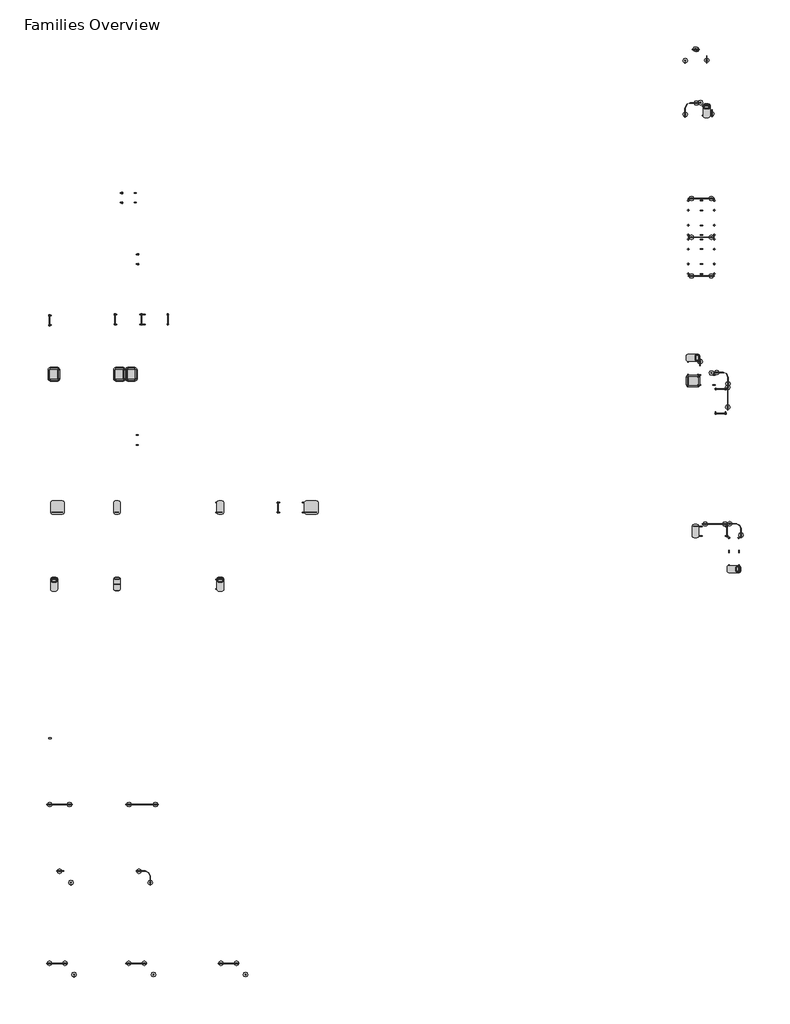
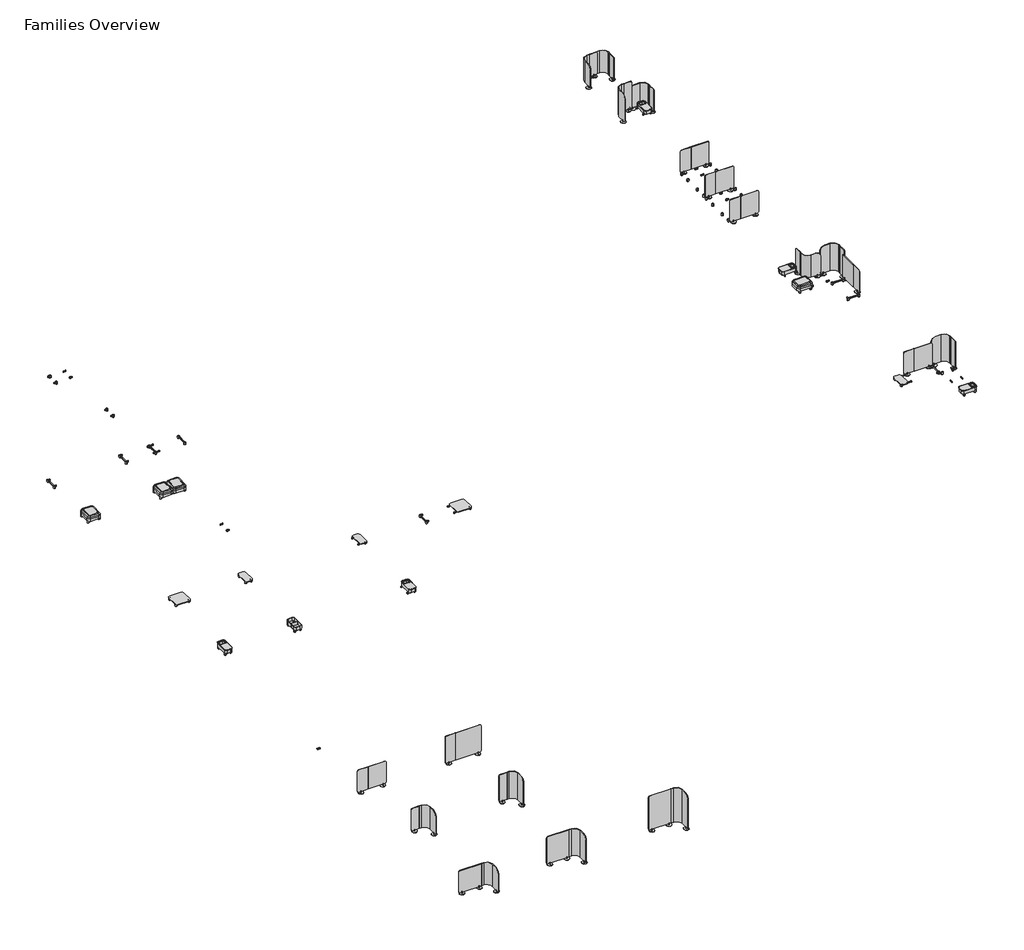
# One storey, incomplete: 97 furniture elements.
"""IFC4 building model written with IfcOpenShell, lengths in millimetres."""

from ifc_helpers import new_model, si_unit, origin, place, context, project, spatial, transform, mapped, element, save
from components import furniture_03c2da46, bench_887439ae, end_feet_1759f682, end_feet_4685812c, end_feet_ee971b91, end_feet_fc13c2ef, end_feet_a7b0973b, end_feet_fcaaf692, end_feet_c620475a, end_feet_60644597, end_feet_8e84b951, end_feet_360865f5, high_5fa6e08a, in_line_connector_dbd1c412, in_line_connector_42f77765, in_line_connector_5fc101ab, in_line_connector_33bfc2a5, in_line_connector_66479919, in_line_connector_24b8dcd2, low_a136bd70, low_30ccc711, low_2566cc5c, low_d14df45f, medium_ccca6f1d, medium_1cc685ec, medium_42b629f5, medium_833216df, middle_feet_97e92b7e, planter_1_liner_2fb4910a, planter_2_liners_fdd25d95, rectangle_table_269c9989, square_table_5ea6825c

model = new_model("IFC4")

# Units and contexts
model_context = context("Model", 3, world=origin())
ifc_project = project(units=[si_unit("LENGTHUNIT", "METRE", prefix="MILLI")], contexts=[model_context])

# Site, building, storey
site = spatial("IfcSite", under=ifc_project)
building = spatial("IfcBuilding", under=site)
storey = spatial("IfcBuildingStorey", under=building, Name="Families Overview", Elevation=0.0)

# Furniture
placement = place(None, origin())
furniture_shape = furniture_03c2da46(model_context)
element("IfcFurniture", 1, ObjectType="Coalesse_AM_Accessory_Lighting_Ensemble_Power : 2 Power/1 USBA/1 USBC", at=placement, inside=storey, context=model_context, shape_type="MappedRepresentation", body=[
    mapped(furniture_shape, transform((188809.7895796, -91010.2701569, 0.0), x_axis=(1.0, 0.0, 0.0), y_axis=(0.0, 1.0, 0.0), z_axis=(0.0, 0.0, 1.0))),
])
bench_shape = bench_887439ae(model_context)
element("IfcFurniture", 2, ObjectType="Coalesse_AM_Seating_LoungeChair_Ensemble_Modular_Bench : Bench", at=placement, inside=storey, context=model_context, shape_type="MappedRepresentation", body=[
    mapped(bench_shape, transform((189051.0895796, -69708.6523723, 0.0), x_axis=(1.0, 0.0, 0.0), y_axis=(0.0, 1.0, 0.0), z_axis=(0.0, 0.0, 1.0))),
])
element("IfcFurniture", 3, ObjectType="Coalesse_AM_Seating_LoungeChair_Ensemble_Modular_Bench : Bench", at=placement, inside=storey, context=model_context, shape_type="MappedRepresentation", body=[
    mapped(bench_shape, transform((192951.3004129, -69708.6523723, 0.0), x_axis=(1.0, 0.0, 0.0), y_axis=(0.0, 1.0, 0.0), z_axis=(0.0, 0.0, 1.0))),
])
element("IfcFurniture", 4, ObjectType="Coalesse_AM_Seating_LoungeChair_Ensemble_Modular_Bench : Bench", at=placement, inside=storey, context=model_context, shape_type="MappedRepresentation", body=[
    mapped(bench_shape, transform((193650.8345794, -69708.6523723, 0.0), x_axis=(1.0, 0.0, 0.0), y_axis=(0.0, 1.0, 0.0), z_axis=(0.0, 0.0, 1.0))),
])
element("IfcFurniture", 5, ObjectType="Coalesse_AM_Seating_LoungeChair_Ensemble_Modular_Bench : Bench", at=placement, inside=storey, context=model_context, shape_type="MappedRepresentation", body=[
    mapped(bench_shape, transform((226705.2162831, -69699.8033591, 0.0), x_axis=(0.0, -1.0, 0.0), y_axis=(1.0, 0.0, 0.0), z_axis=(0.0, 0.0, 1.0))),
])
end_feet_shape = end_feet_1759f682(model_context)
element("IfcFurniture", 6, ObjectType="Coalesse_AM_Ensemble_Chaise_EndFeet : End Feet", at=placement, inside=storey, context=model_context, shape_type="MappedRepresentation", body=[
    mapped(end_feet_shape, transform((188701.3224964, -66492.6726227, 0.0), x_axis=(1.0, 0.0, 0.0), y_axis=(0.0, 1.0, 0.0), z_axis=(0.0, 0.0, 1.0))),
])
element("IfcFurniture", 7, ObjectType="Coalesse_AM_Ensemble_Chaise_EndFeet : End Feet", at=placement, inside=storey, context=model_context, shape_type="MappedRepresentation", body=[
    mapped(end_feet_shape, transform((192601.5333296, -66442.1002054, 0.0), x_axis=(1.0, 0.0, 0.0), y_axis=(0.0, 1.0, 0.0), z_axis=(0.0, 0.0, 1.0))),
])
element("IfcFurniture", 8, ObjectType="Coalesse_AM_Ensemble_Chaise_EndFeet : End Feet", at=placement, inside=storey, context=model_context, shape_type="MappedRepresentation", body=[
    mapped(end_feet_shape, transform((202294.3525575, -77638.100078, 0.0), x_axis=(1.0, 0.0, 0.0), y_axis=(0.0, 1.0, 0.0), z_axis=(0.0, 0.0, 1.0))),
])
end_feet_2_shape = end_feet_4685812c(model_context)
element("IfcFurniture", 9, ObjectType="Coalesse_AM_Ensemble_Table_EndFeet : End Feet", at=placement, inside=storey, context=model_context, shape_type="MappedRepresentation", body=[
    mapped(end_feet_2_shape, transform((188907.0754928, -77638.100078, 0.0), x_axis=(1.0, 0.0, 0.0), y_axis=(0.0, 1.0, 0.0), z_axis=(0.0, 0.0, 1.0))),
])
element("IfcFurniture", 10, ObjectType="Coalesse_AM_Ensemble_Table_EndFeet : End Feet", at=placement, inside=storey, context=model_context, shape_type="MappedRepresentation", body=[
    mapped(end_feet_2_shape, transform((192654.8863261, -77638.100078, 0.0), x_axis=(1.0, 0.0, 0.0), y_axis=(0.0, 1.0, 0.0), z_axis=(0.0, 0.0, 1.0))),
])
element("IfcFurniture", 11, ObjectType="Coalesse_AM_Ensemble_Table_EndFeet : End Feet", at=placement, inside=storey, context=model_context, shape_type="MappedRepresentation", body=[
    mapped(end_feet_2_shape, transform((227110.2999646, -79049.139443, 0.0), x_axis=(0.9999999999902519, 4.41544376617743e-06, 0.0), y_axis=(-4.41544376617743e-06, 0.9999999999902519, 0.0), z_axis=(0.0, 0.0, 1.0))),
])
element("IfcFurniture", 12, ObjectType="Coalesse_AM_Ensemble_Planter_EndFeet : End Feet", at=placement, inside=storey, context=model_context, shape_type="MappedRepresentation", body=[
    mapped(end_feet_2_shape, transform((188907.0754928, -82208.5247708, 0.0), x_axis=(1.0, 0.0, 0.0), y_axis=(0.0, 1.0, 0.0), z_axis=(0.0, 0.0, 1.0))),
])
element("IfcFurniture", 13, ObjectType="Coalesse_AM_Ensemble_Planter_EndFeet : End Feet", at=placement, inside=storey, context=model_context, shape_type="MappedRepresentation", body=[
    mapped(end_feet_2_shape, transform((192654.8863261, -82208.5247708, 0.0), x_axis=(1.0, 0.0, 0.0), y_axis=(0.0, 1.0, 0.0), z_axis=(0.0, 0.0, 1.0))),
])
element("IfcFurniture", 14, ObjectType="Coalesse_AM_Ensemble_Planter_EndFeet : End Feet", at=placement, inside=storey, context=model_context, shape_type="MappedRepresentation", body=[
    mapped(end_feet_2_shape, transform((226703.6463236, -68161.8289435, 0.0), x_axis=(-1.485835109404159e-05, -0.9999999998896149, 0.0), y_axis=(0.9999999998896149, -1.485835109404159e-05, 0.0), z_axis=(0.0, 0.0, 1.0))),
])
end_feet_3_shape = end_feet_ee971b91(model_context)
element("IfcFurniture", 15, ObjectType="Coalesse_AM_Ensemble_Bench_EndOption : End Feet", at=placement, inside=storey, context=model_context, shape_type="MappedRepresentation", body=[
    mapped(end_feet_3_shape, transform((188701.3224964, -69708.6523723, 0.0), x_axis=(1.0, 0.0, 0.0), y_axis=(0.0, 1.0, 0.0), z_axis=(0.0, 0.0, 1.0))),
])
element("IfcFurniture", 16, ObjectType="Coalesse_AM_Ensemble_Bench_EndOption : End Feet", at=placement, inside=storey, context=model_context, shape_type="MappedRepresentation", body=[
    mapped(end_feet_3_shape, transform((192601.5333296, -69708.6523723, 0.0), x_axis=(1.0, 0.0, 0.0), y_axis=(0.0, 1.0, 0.0), z_axis=(0.0, 0.0, 1.0))),
])
end_feet_4_shape = end_feet_fc13c2ef(model_context)
element("IfcFurniture", 17, ObjectType="Coalesse_AM_Ensemble_Bench_EndOption : End Feet", at=placement, inside=storey, context=model_context, shape_type="MappedRepresentation", body=[
    mapped(end_feet_4_shape, transform((189400.8566629, -69708.6523723, 0.0), x_axis=(-1.0, 0.0, 0.0), y_axis=(0.0, -1.0, 0.0), z_axis=(0.0, 0.0, 1.0))),
])
element("IfcFurniture", 18, ObjectType="Coalesse_AM_Ensemble_Bench_EndOption : End Feet", at=placement, inside=storey, context=model_context, shape_type="MappedRepresentation", body=[
    mapped(end_feet_4_shape, transform((194000.6016627, -69708.6523723, 0.0), x_axis=(-1.0, 0.0, 0.0), y_axis=(0.0, -1.0, 0.0), z_axis=(0.0, 0.0, 1.0))),
])
element("IfcFurniture", 19, ObjectType="Coalesse_AM_Ensemble_Bench_EndOption : End Feet", at=placement, inside=storey, context=model_context, shape_type="MappedRepresentation", body=[
    mapped(end_feet_4_shape, transform((226705.2162831, -70049.5704424, 0.0), x_axis=(0.0, 1.0, 0.0), y_axis=(-1.0, 0.0, 0.0), z_axis=(0.0, 0.0, 1.0))),
])
end_feet_5_shape = end_feet_a7b0973b(model_context)
element("IfcFurniture", 20, ObjectType="Coalesse_AM_Ensemble_Table_EndFeet : End Feet", at=placement, inside=storey, context=model_context, shape_type="MappedRepresentation", body=[
    mapped(end_feet_5_shape, transform((189611.3629329, -77638.100078, 0.0), x_axis=(-1.0, 0.0, 0.0), y_axis=(0.0, -1.0, 0.0), z_axis=(0.0, 0.0, 1.0))),
])
element("IfcFurniture", 21, ObjectType="Coalesse_AM_Ensemble_Table_EndFeet : End Feet", at=placement, inside=storey, context=model_context, shape_type="MappedRepresentation", body=[
    mapped(end_feet_5_shape, transform((199102.7424333, -77638.100078, 0.0), x_axis=(-1.0, 0.0, 0.0), y_axis=(0.0, -1.0, 0.0), z_axis=(0.0, 0.0, 1.0))),
])
element("IfcFurniture", 22, ObjectType="Coalesse_AM_Ensemble_Table_EndFeet : End Feet", at=placement, inside=storey, context=model_context, shape_type="MappedRepresentation", body=[
    mapped(end_feet_5_shape, transform((204730.4660792, -77638.100078, 0.0), x_axis=(-1.0, 0.0, 0.0), y_axis=(0.0, -1.0, 0.0), z_axis=(0.0, 0.0, 1.0))),
])
element("IfcFurniture", 23, ObjectType="Coalesse_AM_Ensemble_Table_EndFeet : End Feet", at=placement, inside=storey, context=model_context, shape_type="MappedRepresentation", body=[
    mapped(end_feet_5_shape, transform((192949.3472647, -77638.100078, 0.0), x_axis=(-1.0, 0.0, 0.0), y_axis=(0.0, -1.0, 0.0), z_axis=(0.0, 0.0, 1.0))),
])
element("IfcFurniture", 24, ObjectType="Coalesse_AM_Ensemble_Planter_EndFeet : End Feet", at=placement, inside=storey, context=model_context, shape_type="MappedRepresentation", body=[
    mapped(end_feet_5_shape, transform((189215.396777, -82189.7286071, 0.0), x_axis=(-1.0, 0.0, 0.0), y_axis=(0.0, -1.0, 0.0), z_axis=(0.0, 0.0, 1.0))),
])
element("IfcFurniture", 25, ObjectType="Coalesse_AM_Ensemble_Planter_EndFeet : End Feet", at=placement, inside=storey, context=model_context, shape_type="MappedRepresentation", body=[
    mapped(end_feet_5_shape, transform((192963.2076102, -82189.7286071, 0.0), x_axis=(-1.0, 0.0, 0.0), y_axis=(0.0, -1.0, 0.0), z_axis=(0.0, 0.0, 1.0))),
])
element("IfcFurniture", 26, ObjectType="Coalesse_AM_Ensemble_Planter_EndFeet : End Feet", at=placement, inside=storey, context=model_context, shape_type="MappedRepresentation", body=[
    mapped(end_feet_5_shape, transform((199113.4230268, -82189.7286071, 0.0), x_axis=(-1.0, 0.0, 0.0), y_axis=(0.0, -1.0, 0.0), z_axis=(0.0, 0.0, 1.0))),
])
element("IfcFurniture", 27, ObjectType="Coalesse_AM_Ensemble_Planter_EndFeet : End Feet", at=placement, inside=storey, context=model_context, shape_type="MappedRepresentation", body=[
    mapped(end_feet_5_shape, transform((228075.4194325, -53996.6622273, 0.0), x_axis=(-0.9999999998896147, 1.4858351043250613e-05, 0.0), y_axis=(-1.4858351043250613e-05, -0.9999999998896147, 0.0), z_axis=(0.0, 0.0, 1.0))),
])
element("IfcFurniture", 28, ObjectType="Coalesse_AM_Ensemble_Planter_EndFeet : End Feet", at=placement, inside=storey, context=model_context, shape_type="MappedRepresentation", body=[
    mapped(end_feet_5_shape, transform((229153.7173517, -81056.4671232, 0.0), x_axis=(-1.1482806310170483e-05, 0.9999999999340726, 0.0), y_axis=(-0.9999999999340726, -1.1482806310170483e-05, 0.0), z_axis=(0.0, 0.0, 1.0))),
])
end_feet_6_shape = end_feet_fcaaf692(model_context)
element("IfcFurniture", 29, ObjectType="Coalesse_AM_Ensemble_Chaise_EndFeet : End Feet", at=placement, inside=storey, context=model_context, shape_type="MappedRepresentation", body=[
    mapped(end_feet_6_shape, transform((228345.5846161, -71728.0387754, 0.0), x_axis=(0.0, 1.0, 0.0), y_axis=(-1.0, 0.0, 0.0), z_axis=(0.0, 0.0, 1.0))),
])
end_feet_7_shape = end_feet_c620475a(model_context)
element("IfcFurniture", 30, ObjectType="Coalesse_AM_Ensemble_Seat_EndOption : End Feet", at=placement, inside=storey, context=model_context, shape_type="MappedRepresentation", body=[
    mapped(end_feet_7_shape, transform((192976.1447419, -59197.700078, 0.0), x_axis=(1.0, 0.0, 0.0), y_axis=(0.0, 1.0, 0.0), z_axis=(0.0, 0.0, 1.0))),
])
element("IfcFurniture", 31, ObjectType="Coalesse_AM_Ensemble_Seat_EndOption : End Feet", at=placement, inside=storey, context=model_context, shape_type="MappedRepresentation", body=[
    mapped(end_feet_7_shape, transform((193925.2293254, -62855.300078, 0.0), x_axis=(1.0, 0.0, 0.0), y_axis=(0.0, 1.0, 0.0), z_axis=(0.0, 0.0, 1.0))),
])
element("IfcFurniture", 32, ObjectType="Coalesse_AM_Ensemble_Seat_EndOption : End Feet", at=placement, inside=storey, context=model_context, shape_type="MappedRepresentation", body=[
    mapped(end_feet_7_shape, transform((226696.7421279, -59652.8265637, 0.0), x_axis=(1.0, 0.0, 0.0), y_axis=(0.0, 1.0, 0.0), z_axis=(0.0, 0.0, 1.0))),
])
element("IfcFurniture", 33, ObjectType="Coalesse_AM_Ensemble_Seat_EndOption : End Feet", at=placement, inside=storey, context=model_context, shape_type="MappedRepresentation", body=[
    mapped(end_feet_7_shape, transform((228504.8368026, -60306.8983715, 0.0), x_axis=(-1.0, 0.0, 0.0), y_axis=(0.0, -1.0, 0.0), z_axis=(0.0, 0.0, 1.0))),
])
element("IfcFurniture", 34, ObjectType="Coalesse_AM_Ensemble_Seat_EndOption : End Feet", at=placement, inside=storey, context=model_context, shape_type="MappedRepresentation", body=[
    mapped(end_feet_7_shape, transform((226696.7421279, -61962.7874222, 0.0), x_axis=(1.0, 0.0, 0.0), y_axis=(0.0, 1.0, 0.0), z_axis=(0.0, 0.0, 1.0))),
])
element("IfcFurniture", 35, ObjectType="Coalesse_AM_Ensemble_Seat_EndOption : End Feet", at=placement, inside=storey, context=model_context, shape_type="MappedRepresentation", body=[
    mapped(end_feet_7_shape, transform((228504.8368026, -62616.85923, 0.0), x_axis=(-1.0, 0.0, 0.0), y_axis=(0.0, -1.0, 0.0), z_axis=(0.0, 0.0, 1.0))),
])
end_feet_8_shape = end_feet_60644597(model_context)
element("IfcFurniture", 36, ObjectType="Coalesse_AM_Ensemble_Chaise_EndOption : End Feet", at=placement, inside=storey, context=model_context, shape_type="MappedRepresentation", body=[
    mapped(end_feet_8_shape, transform((196042.8861411, -66442.1002054, 0.0), x_axis=(-1.0, 0.0, 0.0), y_axis=(0.0, -1.0, 0.0), z_axis=(0.0, 0.0, 1.0))),
])
end_feet_9_shape = end_feet_8e84b951(model_context)
element("IfcFurniture", 37, ObjectType="Coalesse_AM_Ensemble_Chaise_EndOption : End Feet", at=placement, inside=storey, context=model_context, shape_type="MappedRepresentation", body=[
    mapped(end_feet_9_shape, transform((228345.5846161, -69965.154297, 0.0), x_axis=(0.0, -1.0, 0.0), y_axis=(1.0, 0.0, 0.0), z_axis=(0.0, 0.0, 1.0))),
])
end_feet_10_shape = end_feet_360865f5(model_context)
element("IfcFurniture", 38, ObjectType="Coalesse_AM_Ensemble_Seat_EndOption : End Feet", at=placement, inside=storey, context=model_context, shape_type="MappedRepresentation", body=[
    mapped(end_feet_10_shape, transform((228504.8368026, -59652.8265637, 0.0), x_axis=(-1.0, 0.0, 0.0), y_axis=(0.0, -1.0, 0.0), z_axis=(0.0, 0.0, 1.0))),
])
element("IfcFurniture", 39, ObjectType="Coalesse_AM_Ensemble_Seat_EndOption : End Feet", at=placement, inside=storey, context=model_context, shape_type="MappedRepresentation", body=[
    mapped(end_feet_10_shape, transform((226696.7421279, -60306.8983715, 0.0), x_axis=(1.0, 0.0, 0.0), y_axis=(0.0, 1.0, 0.0), z_axis=(0.0, 0.0, 1.0))),
])
element("IfcFurniture", 40, ObjectType="Coalesse_AM_Ensemble_Seat_EndOption : End Feet", at=placement, inside=storey, context=model_context, shape_type="MappedRepresentation", body=[
    mapped(end_feet_10_shape, transform((228504.8368026, -61962.7874222, 0.0), x_axis=(-1.0, 0.0, 0.0), y_axis=(0.0, -1.0, 0.0), z_axis=(0.0, 0.0, 1.0))),
])
element("IfcFurniture", 41, ObjectType="Coalesse_AM_Ensemble_Seat_EndOption : End Feet", at=placement, inside=storey, context=model_context, shape_type="MappedRepresentation", body=[
    mapped(end_feet_10_shape, transform((226696.7421279, -62616.85923, 0.0), x_axis=(1.0, 0.0, 0.0), y_axis=(0.0, 1.0, 0.0), z_axis=(0.0, 0.0, 1.0))),
])
high_shape = high_5fa6e08a(model_context)
element("IfcFurniture", 42, ObjectType="Coalesse_AM_SpaceDivision_Screen_Ensemble_J : High", at=placement, inside=storey, context=model_context, shape_type="MappedRepresentation", body=[
    mapped(high_shape, transform((198824.2566629, -104364.9882848, 0.0), x_axis=(1.0, 0.0, 0.0), y_axis=(0.0, 1.0, 0.0), z_axis=(0.0, 0.0, 1.0))),
])
in_line_connector_shape = in_line_connector_dbd1c412(model_context)
element("IfcFurniture", 43, ObjectType="Coalesse_AM_Ensemble_Chaise_EndFeet : In-Line Connector", at=placement, inside=storey, context=model_context, shape_type="MappedRepresentation", body=[
    mapped(in_line_connector_shape, transform((194280.0016627, -66442.1002054, 0.0), x_axis=(1.0, 0.0, 0.0), y_axis=(0.0, 1.0, 0.0), z_axis=(0.0, 0.0, 1.0))),
])
element("IfcFurniture", 44, ObjectType="Coalesse_AM_Ensemble_Chaise_EndFeet : In-Line Connector", at=placement, inside=storey, context=model_context, shape_type="MappedRepresentation", body=[
    mapped(in_line_connector_shape, transform((227458.0129682, -79049.1379077, 0.0), x_axis=(0.9999999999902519, 4.415443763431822e-06, 0.0), y_axis=(-4.415443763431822e-06, 0.9999999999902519, 0.0), z_axis=(0.0, 0.0, 1.0))),
])
in_line_connector_2_shape = in_line_connector_42f77765(model_context)
element("IfcFurniture", 45, ObjectType="Coalesse_AM_Ensemble_Bench_EndOption : In-Line Connector", at=placement, inside=storey, context=model_context, shape_type="MappedRepresentation", body=[
    mapped(in_line_connector_2_shape, transform((193301.0674962, -69708.6523723, 0.0), x_axis=(-1.0, 0.0, 0.0), y_axis=(0.0, -1.0, 0.0), z_axis=(0.0, 0.0, 1.0))),
])
in_line_connector_3_shape = in_line_connector_5fc101ab(model_context)
element("IfcFurniture", 46, ObjectType="Coalesse_AM_Ensemble_Bench_EndOption : In-Line Connector", at=placement, inside=storey, context=model_context, shape_type="MappedRepresentation", body=[
    mapped(in_line_connector_3_shape, transform((193301.0674962, -69708.6523723, 0.0), x_axis=(1.0, 0.0, 0.0), y_axis=(0.0, 1.0, 0.0), z_axis=(0.0, 0.0, 1.0))),
])
element("IfcFurniture", 47, ObjectType="Coalesse_AM_Ensemble_Bench_EndOption : In-Line Connector", at=placement, inside=storey, context=model_context, shape_type="MappedRepresentation", body=[
    mapped(in_line_connector_3_shape, transform((226705.2162831, -69350.0362758, 0.0), x_axis=(0.0, -1.0, 0.0), y_axis=(1.0, 0.0, 0.0), z_axis=(0.0, 0.0, 1.0))),
])
in_line_connector_4_shape = in_line_connector_33bfc2a5(model_context)
element("IfcFurniture", 48, ObjectType="Coalesse_AM_Ensemble_Seat_EndOption : In-Line Connector", at=placement, inside=storey, context=model_context, shape_type="MappedRepresentation", body=[
    mapped(in_line_connector_4_shape, transform((227441.5372788, -70049.5704424, 0.0), x_axis=(1.0, 0.0, 0.0), y_axis=(0.0, 1.0, 0.0), z_axis=(0.0, 0.0, 1.0))),
])
element("IfcFurniture", 49, ObjectType="Coalesse_AM_Ensemble_Seat_EndOption : In-Line Connector", at=placement, inside=storey, context=model_context, shape_type="MappedRepresentation", body=[
    mapped(in_line_connector_4_shape, transform((226705.2162831, -68445.9889385, 0.0), x_axis=(0.0, -1.0, 0.0), y_axis=(1.0, 0.0, 0.0), z_axis=(0.0, 0.0, 1.0))),
])
element("IfcFurniture", 50, ObjectType="Coalesse_AM_Ensemble_Seat_EndOption : In-Line Connector", at=placement, inside=storey, context=model_context, shape_type="MappedRepresentation", body=[
    mapped(in_line_connector_4_shape, transform((227678.3026361, -60306.8983715, 0.0), x_axis=(-1.0, 0.0, 0.0), y_axis=(0.0, -1.0, 0.0), z_axis=(0.0, 0.0, 1.0))),
])
element("IfcFurniture", 51, ObjectType="Coalesse_AM_Ensemble_Seat_EndOption : In-Line Connector", at=placement, inside=storey, context=model_context, shape_type="MappedRepresentation", body=[
    mapped(in_line_connector_4_shape, transform((227678.3026361, -62616.85923, 0.0), x_axis=(-1.0, 0.0, 0.0), y_axis=(0.0, -1.0, 0.0), z_axis=(0.0, 0.0, 1.0))),
])
element("IfcFurniture", 52, ObjectType="Coalesse_AM_Ensemble_Seat_EndOption : In-Line Connector", at=placement, inside=storey, context=model_context, shape_type="MappedRepresentation", body=[
    mapped(in_line_connector_4_shape, transform((229136.4848987, -79790.745703, 0.0), x_axis=(1.148280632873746e-05, -0.9999999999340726, 0.0), y_axis=(0.9999999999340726, 1.148280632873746e-05, 0.0), z_axis=(0.0, 0.0, 1.0))),
])
in_line_connector_5_shape = in_line_connector_66479919(model_context)
element("IfcFurniture", 53, ObjectType="Coalesse_AM_Ensemble_Seat_EndOption : In-Line Connector", at=placement, inside=storey, context=model_context, shape_type="MappedRepresentation", body=[
    mapped(in_line_connector_5_shape, transform((193131.1710835, -59197.700078, 0.0), x_axis=(-1.0, 0.0, 0.0), y_axis=(0.0, -1.0, 0.0), z_axis=(0.0, 0.0, 1.0))),
])
element("IfcFurniture", 54, ObjectType="Coalesse_AM_Ensemble_Seat_EndOption : In-Line Connector", at=placement, inside=storey, context=model_context, shape_type="MappedRepresentation", body=[
    mapped(in_line_connector_5_shape, transform((193957.70525, -59197.700078, 0.0), x_axis=(-1.0, 0.0, 0.0), y_axis=(0.0, -1.0, 0.0), z_axis=(0.0, 0.0, 1.0))),
])
element("IfcFurniture", 55, ObjectType="Coalesse_AM_Ensemble_Seat_EndOption : In-Line Connector", at=placement, inside=storey, context=model_context, shape_type="MappedRepresentation", body=[
    mapped(in_line_connector_5_shape, transform((194079.6001629, -62855.300078, 0.0), x_axis=(-1.0, 0.0, 0.0), y_axis=(0.0, -1.0, 0.0), z_axis=(0.0, 0.0, 1.0))),
])
element("IfcFurniture", 56, ObjectType="Coalesse_AM_Ensemble_Seat_EndOption : In-Line Connector", at=placement, inside=storey, context=model_context, shape_type="MappedRepresentation", body=[
    mapped(in_line_connector_5_shape, transform((194079.6001629, -73619.2182058, 0.0), x_axis=(-1.0, 0.0, 0.0), y_axis=(0.0, -1.0, 0.0), z_axis=(0.0, 0.0, 1.0))),
])
element("IfcFurniture", 57, ObjectType="Coalesse_AM_Ensemble_Seat_EndOption : In-Line Connector", at=placement, inside=storey, context=model_context, shape_type="MappedRepresentation", body=[
    mapped(in_line_connector_5_shape, transform((198831.7814129, -77638.100078, 0.0), x_axis=(-1.0, 0.0, 0.0), y_axis=(0.0, -1.0, 0.0), z_axis=(0.0, 0.0, 1.0))),
])
element("IfcFurniture", 58, ObjectType="Coalesse_AM_Ensemble_Seat_EndOption : In-Line Connector", at=placement, inside=storey, context=model_context, shape_type="MappedRepresentation", body=[
    mapped(in_line_connector_5_shape, transform((198831.7814129, -82208.5247708, 0.0), x_axis=(-1.0, 0.0, 0.0), y_axis=(0.0, -1.0, 0.0), z_axis=(0.0, 0.0, 1.0))),
])
element("IfcFurniture", 59, ObjectType="Coalesse_AM_Ensemble_Seat_EndOption : In-Line Connector", at=placement, inside=storey, context=model_context, shape_type="MappedRepresentation", body=[
    mapped(in_line_connector_5_shape, transform((228423.0977869, -70049.5704424, 0.0), x_axis=(-1.0, 0.0, 0.0), y_axis=(0.0, -1.0, 0.0), z_axis=(0.0, 0.0, 1.0))),
])
element("IfcFurniture", 60, ObjectType="Coalesse_AM_Ensemble_Seat_EndOption : In-Line Connector", at=placement, inside=storey, context=model_context, shape_type="MappedRepresentation", body=[
    mapped(in_line_connector_5_shape, transform((226705.2162831, -69427.5494467, 0.0), x_axis=(0.0, 1.0, 0.0), y_axis=(-1.0, 0.0, 0.0), z_axis=(0.0, 0.0, 1.0))),
])
element("IfcFurniture", 61, ObjectType="Coalesse_AM_Ensemble_Seat_EndOption : In-Line Connector", at=placement, inside=storey, context=model_context, shape_type="MappedRepresentation", body=[
    mapped(in_line_connector_5_shape, transform((227678.3026361, -59652.8265637, 0.0), x_axis=(-1.0, 0.0, 0.0), y_axis=(0.0, -1.0, 0.0), z_axis=(0.0, 0.0, 1.0))),
])
element("IfcFurniture", 62, ObjectType="Coalesse_AM_Ensemble_Seat_EndOption : In-Line Connector", at=placement, inside=storey, context=model_context, shape_type="MappedRepresentation", body=[
    mapped(in_line_connector_5_shape, transform((227678.3026361, -61962.7874222, 0.0), x_axis=(-1.0, 0.0, 0.0), y_axis=(0.0, -1.0, 0.0), z_axis=(0.0, 0.0, 1.0))),
])
element("IfcFurniture", 63, ObjectType="Coalesse_AM_Ensemble_Seat_EndOption : In-Line Connector", at=placement, inside=storey, context=model_context, shape_type="MappedRepresentation", body=[
    mapped(in_line_connector_5_shape, transform((227791.2580667, -54013.8838505, 0.0), x_axis=(-1.0, 0.0, 0.0), y_axis=(0.0, -1.0, 0.0), z_axis=(0.0, 0.0, 1.0))),
])
element("IfcFurniture", 64, ObjectType="Coalesse_AM_Ensemble_Seat_EndOption : In-Line Connector", at=placement, inside=storey, context=model_context, shape_type="MappedRepresentation", body=[
    mapped(in_line_connector_5_shape, transform((229136.4961698, -80772.3062111, 0.0), x_axis=(-1.148280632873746e-05, 0.9999999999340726, 0.0), y_axis=(-0.9999999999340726, -1.148280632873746e-05, 0.0), z_axis=(0.0, 0.0, 1.0))),
])
in_line_connector_6_shape = in_line_connector_24b8dcd2(model_context)
element("IfcFurniture", 65, ObjectType="Coalesse_AM_Ensemble_Chaise_EndOption : In-Line Connector", at=placement, inside=storey, context=model_context, shape_type="MappedRepresentation", body=[
    mapped(in_line_connector_6_shape, transform((204057.2370359, -77638.100078, 0.0), x_axis=(-1.0, 0.0, 0.0), y_axis=(0.0, -1.0, 0.0), z_axis=(0.0, 0.0, 1.0))),
])
low_shape = low_a136bd70(model_context)
element("IfcFurniture", 66, ObjectType="Coalesse_AM_SpaceDivision_Screen_Ensemble_Corner : Low", at=placement, inside=storey, context=model_context, shape_type="MappedRepresentation", body=[
    mapped(low_shape, transform((189223.0566629, -98878.5882848, 0.0), x_axis=(1.0, 0.0, 0.0), y_axis=(0.0, 1.0, 0.0), z_axis=(0.0, 0.0, 1.0))),
])
low_2_shape = low_30ccc711(model_context)
element("IfcFurniture", 67, ObjectType="Coalesse_AM_SpaceDivision_Screen_Ensemble_J : Low", at=placement, inside=storey, context=model_context, shape_type="MappedRepresentation", body=[
    mapped(low_2_shape, transform((188613.4566629, -104364.9882848, 0.0), x_axis=(1.0, 0.0, 0.0), y_axis=(0.0, 1.0, 0.0), z_axis=(0.0, 0.0, 1.0))),
])
low_3_shape = low_2566cc5c(model_context)
element("IfcFurniture", 68, ObjectType="Coalesse_AM_SpaceDivision_Screen_Ensemble_Straight : Low", at=placement, inside=storey, context=model_context, shape_type="MappedRepresentation", body=[
    mapped(low_3_shape, transform((188613.4566629, -94916.1882848, 0.0), x_axis=(1.0, 0.0, 0.0), y_axis=(0.0, 1.0, 0.0), z_axis=(0.0, 0.0, 1.0))),
])
element("IfcFurniture", 69, ObjectType="Coalesse_AM_SpaceDivision_Screen_Ensemble_Straight : Low", at=placement, inside=storey, context=model_context, shape_type="MappedRepresentation", body=[
    mapped(low_3_shape, transform((226831.7909826, -58815.4193851, 0.0), x_axis=(1.0, 0.0, 0.0), y_axis=(0.0, 1.0, 0.0), z_axis=(0.0, 0.0, 1.0))),
])
element("IfcFurniture", 70, ObjectType="Coalesse_AM_SpaceDivision_Screen_Ensemble_Straight : Low", at=placement, inside=storey, context=model_context, shape_type="MappedRepresentation", body=[
    mapped(low_3_shape, transform((226831.7909826, -61126.0265637, 0.0), x_axis=(1.0, 0.0, 0.0), y_axis=(0.0, 1.0, 0.0), z_axis=(0.0, 0.0, 1.0))),
])
element("IfcFurniture", 71, ObjectType="Coalesse_AM_SpaceDivision_Screen_Ensemble_Straight : Low", at=placement, inside=storey, context=model_context, shape_type="MappedRepresentation", body=[
    mapped(low_3_shape, transform((226831.7909826, -63436.6337422, 0.0), x_axis=(1.0, 0.0, 0.0), y_axis=(0.0, 1.0, 0.0), z_axis=(0.0, 0.0, 1.0))),
])
element("IfcFurniture", 72, ObjectType="Coalesse_AM_SpaceDivision_Screen_Ensemble_Straight : Low", at=placement, inside=storey, context=model_context, shape_type="MappedRepresentation", body=[
    mapped(low_3_shape, transform((229172.1187826, -71444.2086922, 0.0), x_axis=(0.0, 1.0, 0.0), y_axis=(-1.0, 0.0, 0.0), z_axis=(0.0, 0.0, 1.0))),
])
element("IfcFurniture", 73, ObjectType="Coalesse_AM_SpaceDivision_Screen_Ensemble_Straight : Low", at=placement, inside=storey, context=model_context, shape_type="MappedRepresentation", body=[
    mapped(low_3_shape, transform((227650.3481459, -78211.7298799, 0.0), x_axis=(0.9999999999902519, 4.415443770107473e-06, 0.0), y_axis=(-4.415443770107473e-06, 0.9999999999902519, 0.0), z_axis=(0.0, 0.0, 1.0))),
])
low_4_shape = low_d14df45f(model_context)
element("IfcFurniture", 74, ObjectType="Coalesse_AM_SpaceDivision_Screen_Ensemble_Corner : Low", at=placement, inside=storey, context=model_context, shape_type="MappedRepresentation", body=[
    mapped(low_4_shape, transform((227487.5799478, -49935.5344872, 0.0), x_axis=(-0.9999999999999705, -2.432514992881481e-07, 0.0), y_axis=(2.432514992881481e-07, -0.9999999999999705, 0.0), z_axis=(0.0, 0.0, 1.0))),
])
element("IfcFurniture", 75, ObjectType="Coalesse_AM_SpaceDivision_Screen_Ensemble_Corner : Low", at=placement, inside=storey, context=model_context, shape_type="MappedRepresentation", body=[
    mapped(low_4_shape, transform((227941.3083249, -50765.5298509, 0.0), x_axis=(-4.865029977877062e-07, 0.9999999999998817, 0.0), y_axis=(-0.9999999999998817, -4.865029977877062e-07, 0.0), z_axis=(0.0, 0.0, 1.0))),
])
element("IfcFurniture", 76, ObjectType="Coalesse_AM_SpaceDivision_Screen_Ensemble_Corner : Low", at=placement, inside=storey, context=model_context, shape_type="MappedRepresentation", body=[
    mapped(low_4_shape, transform((228246.1083249, -53965.9298509, 0.0), x_axis=(-4.865029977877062e-07, 0.9999999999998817, 0.0), y_axis=(-0.9999999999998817, -4.865029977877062e-07, 0.0), z_axis=(0.0, 0.0, 1.0))),
])
element("IfcFurniture", 77, ObjectType="Coalesse_AM_SpaceDivision_Screen_Ensemble_Corner : Low", at=placement, inside=storey, context=model_context, shape_type="MappedRepresentation", body=[
    mapped(low_4_shape, transform((227519.0504496, -68377.1156084, 0.0), x_axis=(0.0, -1.0, 0.0), y_axis=(1.0, 0.0, 0.0), z_axis=(0.0, 0.0, 1.0))),
])
medium_shape = medium_ccca6f1d(model_context)
element("IfcFurniture", 78, ObjectType="Coalesse_AM_SpaceDivision_Screen_Ensemble_Corner : Medium", at=placement, inside=storey, context=model_context, shape_type="MappedRepresentation", body=[
    mapped(medium_shape, transform((193947.4566629, -98878.5882848, 0.0), x_axis=(1.0, 0.0, 0.0), y_axis=(0.0, 1.0, 0.0), z_axis=(0.0, 0.0, 1.0))),
])
medium_2_shape = medium_1cc685ec(model_context)
element("IfcFurniture", 79, ObjectType="Coalesse_AM_SpaceDivision_Screen_Ensemble_J : Medium", at=placement, inside=storey, context=model_context, shape_type="MappedRepresentation", body=[
    mapped(medium_2_shape, transform((193337.8566629, -104364.9882848, 0.0), x_axis=(1.0, 0.0, 0.0), y_axis=(0.0, 1.0, 0.0), z_axis=(0.0, 0.0, 1.0))),
])
medium_3_shape = medium_42b629f5(model_context)
element("IfcFurniture", 80, ObjectType="Coalesse_AM_SpaceDivision_Screen_Ensemble_Straight : Medium", at=placement, inside=storey, context=model_context, shape_type="MappedRepresentation", body=[
    mapped(medium_3_shape, transform((193337.8566629, -94916.1882848, 0.0), x_axis=(1.0, 0.0, 0.0), y_axis=(0.0, 1.0, 0.0), z_axis=(0.0, 0.0, 1.0))),
])
medium_4_shape = medium_833216df(model_context)
element("IfcFurniture", 81, ObjectType="Coalesse_AM_SpaceDivision_Screen_Ensemble_Corner : Medium", at=placement, inside=storey, context=model_context, shape_type="MappedRepresentation", body=[
    mapped(medium_4_shape, transform((227487.5799478, -53135.9344872, 0.0), x_axis=(-0.9999999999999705, -2.432514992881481e-07, 0.0), y_axis=(2.432514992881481e-07, -0.9999999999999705, 0.0), z_axis=(0.0, 0.0, 1.0))),
])
element("IfcFurniture", 82, ObjectType="Coalesse_AM_SpaceDivision_Screen_Ensemble_Corner : Medium", at=placement, inside=storey, context=model_context, shape_type="MappedRepresentation", body=[
    mapped(medium_4_shape, transform((229215.0159114, -70035.6841123, 0.0), x_axis=(-2.432514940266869e-07, 0.9999999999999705, 0.0), y_axis=(-0.9999999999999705, -2.432514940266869e-07, 0.0), z_axis=(0.0, 0.0, 1.0))),
])
element("IfcFurniture", 83, ObjectType="Coalesse_AM_SpaceDivision_Screen_Ensemble_Corner : Medium", at=placement, inside=storey, context=model_context, shape_type="MappedRepresentation", body=[
    mapped(medium_4_shape, transform((229986.9987581, -79041.714941, 0.0), x_axis=(-1.1482806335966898e-05, 0.9999999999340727, 0.0), y_axis=(-0.9999999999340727, -1.1482806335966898e-05, 0.0), z_axis=(0.0, 0.0, 1.0))),
])
middle_feet_shape = middle_feet_97e92b7e(model_context)
element("IfcFurniture", 84, ObjectType="Coalesse_AM_Ensemble_Seat_EndOption : Middle Feet", at=placement, inside=storey, context=model_context, shape_type="MappedRepresentation", body=[
    mapped(middle_feet_shape, transform((229136.4848987, -78964.2115365, 0.0), x_axis=(1.148280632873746e-05, -0.9999999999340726, 0.0), y_axis=(0.9999999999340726, 1.148280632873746e-05, 0.0), z_axis=(0.0, 0.0, 1.0))),
])
element("IfcFurniture", 85, ObjectType="Coalesse_AM_Ensemble_Chaise_EndOption : Middle Feet", at=placement, inside=storey, context=model_context, shape_type="MappedRepresentation", body=[
    mapped(end_feet_6_shape, transform((194364.417808, -66442.1002054, 0.0), x_axis=(-1.0, 0.0, 0.0), y_axis=(0.0, -1.0, 0.0), z_axis=(0.0, 0.0, 1.0))),
])
element("IfcFurniture", 86, ObjectType="Coalesse_AM_Ensemble_Chaise_EndOption : Middle Feet", at=placement, inside=storey, context=model_context, shape_type="MappedRepresentation", body=[
    mapped(end_feet_6_shape, transform((229220.8974466, -79049.1301237, 0.0), x_axis=(-0.9999999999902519, -4.415443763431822e-06, 0.0), y_axis=(4.415443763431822e-06, -0.9999999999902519, 0.0), z_axis=(0.0, 0.0, 1.0))),
])
planter_1_liner_shape = planter_1_liner_2fb4910a(model_context)
element("IfcFurniture", 87, ObjectType="Coalesse_AM_Accessory_Planter_Ensemble_Modular : Planter 1 Liner", at=placement, inside=storey, context=model_context, shape_type="MappedRepresentation", body=[
    mapped(planter_1_liner_shape, transform((189266.9895796, -82208.5247708, 0.0), x_axis=(1.0, 0.0, 0.0), y_axis=(0.0, 1.0, 0.0), z_axis=(0.0, 0.0, 1.0))),
])
element("IfcFurniture", 88, ObjectType="Coalesse_AM_Accessory_Planter_Ensemble_Modular : Planter 1 Liner", at=placement, inside=storey, context=model_context, shape_type="MappedRepresentation", body=[
    mapped(planter_1_liner_shape, transform((199165.0158294, -82208.5247708, 0.0), x_axis=(1.0, 0.0, 0.0), y_axis=(0.0, 1.0, 0.0), z_axis=(0.0, 0.0, 1.0))),
])
element("IfcFurniture", 89, ObjectType="Coalesse_AM_Accessory_Planter_Ensemble_Modular : Planter 1 Liner", at=placement, inside=storey, context=model_context, shape_type="MappedRepresentation", body=[
    mapped(planter_1_liner_shape, transform((228127.0119558, -54015.4591577, 0.0), x_axis=(0.9999999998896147, -1.4858351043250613e-05, 0.0), y_axis=(1.4858351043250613e-05, 0.9999999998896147, 0.0), z_axis=(0.0, 0.0, 1.0))),
])
element("IfcFurniture", 90, ObjectType="Coalesse_AM_Accessory_Planter_Ensemble_Modular : Planter 1 Liner", at=placement, inside=storey, context=model_context, shape_type="MappedRepresentation", body=[
    mapped(planter_1_liner_shape, transform((229134.9217804, -81108.0601417, 0.0), x_axis=(1.1482806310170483e-05, -0.9999999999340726, 0.0), y_axis=(0.9999999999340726, 1.1482806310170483e-05, 0.0), z_axis=(0.0, 0.0, 1.0))),
])
element("IfcFurniture", 91, ObjectType="Coalesse_AM_Accessory_Planter_Ensemble_Modular : Planter 1 Liner", at=placement, inside=storey, context=model_context, shape_type="MappedRepresentation", body=[
    mapped(planter_1_liner_shape, transform((226703.6409759, -68521.7430303, 0.0), x_axis=(-1.485835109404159e-05, -0.9999999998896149, 0.0), y_axis=(0.9999999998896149, -1.485835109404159e-05, 0.0), z_axis=(0.0, 0.0, 1.0))),
])
planter_2_liners_shape = planter_2_liners_fdd25d95(model_context)
element("IfcFurniture", 92, ObjectType="Coalesse_AM_Accessory_Planter_Ensemble_Modular : Planter 2 Liners", at=placement, inside=storey, context=model_context, shape_type="MappedRepresentation", body=[
    mapped(planter_2_liners_shape, transform((193014.8004129, -82208.5247708, 0.0), x_axis=(1.0, 0.0, 0.0), y_axis=(0.0, 1.0, 0.0), z_axis=(0.0, 0.0, 1.0))),
])
rectangle_table_shape = rectangle_table_269c9989(model_context)
element("IfcFurniture", 93, ObjectType="Coalesse_AM_Table_Occasional_Ensemble_Modular : Rectangle Table", at=placement, inside=storey, context=model_context, shape_type="MappedRepresentation", body=[
    mapped(rectangle_table_shape, transform((193014.8004129, -77638.100078, 0.0), x_axis=(1.0, 0.0, 0.0), y_axis=(0.0, 1.0, 0.0), z_axis=(0.0, 0.0, 1.0))),
])
element("IfcFurniture", 94, ObjectType="Coalesse_AM_Table_Occasional_Ensemble_Modular : Rectangle Table", at=placement, inside=storey, context=model_context, shape_type="MappedRepresentation", body=[
    mapped(rectangle_table_shape, transform((199168.1908294, -77638.100078, 0.0), x_axis=(1.0, 0.0, 0.0), y_axis=(0.0, 1.0, 0.0), z_axis=(0.0, 0.0, 1.0))),
])
element("IfcFurniture", 95, ObjectType="Coalesse_AM_Table_Occasional_Ensemble_Modular : Rectangle Table", at=placement, inside=storey, context=model_context, shape_type="MappedRepresentation", body=[
    mapped(rectangle_table_shape, transform((227470.2140515, -79049.1378538, 0.0), x_axis=(0.9999999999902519, 4.41544376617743e-06, 0.0), y_axis=(-4.41544376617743e-06, 0.9999999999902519, 0.0), z_axis=(0.0, 0.0, 1.0))),
])
square_table_shape = square_table_5ea6825c(model_context)
element("IfcFurniture", 96, ObjectType="Coalesse_AM_Table_Occasional_Ensemble_Modular : Square Table", at=placement, inside=storey, context=model_context, shape_type="MappedRepresentation", body=[
    mapped(square_table_shape, transform((189266.9895796, -77638.100078, 0.0), x_axis=(1.0, 0.0, 0.0), y_axis=(0.0, 1.0, 0.0), z_axis=(0.0, 0.0, 1.0))),
])
element("IfcFurniture", 97, ObjectType="Coalesse_AM_Table_Occasional_Ensemble_Modular : Square Table", at=placement, inside=storey, context=model_context, shape_type="MappedRepresentation", body=[
    mapped(square_table_shape, transform((204386.0879739, -77638.100078, 0.0), x_axis=(1.0, 0.0, 0.0), y_axis=(0.0, 1.0, 0.0), z_axis=(0.0, 0.0, 1.0))),
])

save(model, "model.ifc")
